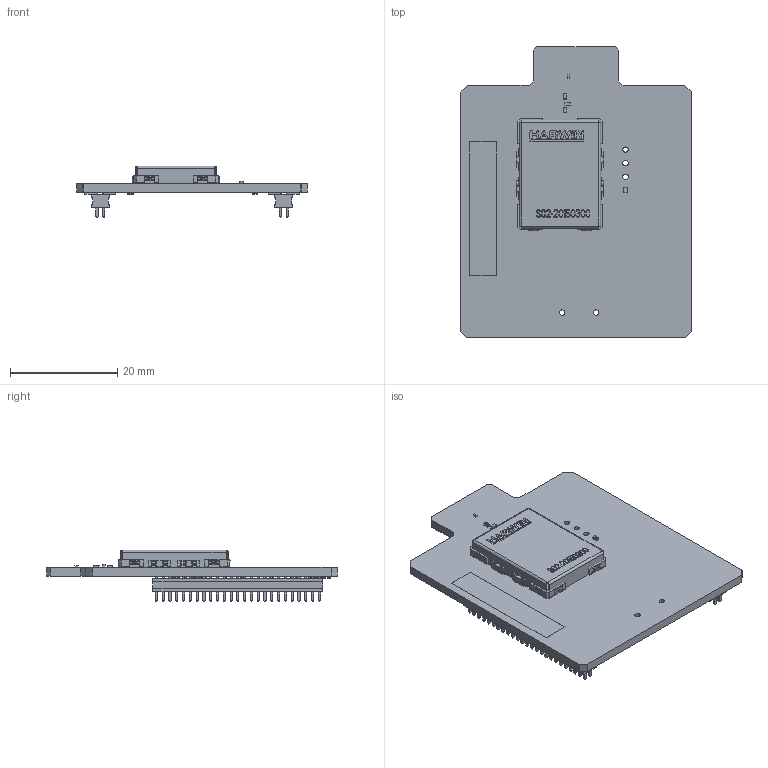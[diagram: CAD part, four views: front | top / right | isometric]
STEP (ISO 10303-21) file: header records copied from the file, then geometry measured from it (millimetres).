
FILE_DESCRIPTION(('Open CASCADE Model'),'2;1');
FILE_NAME('Open CASCADE Shape Model','2024-06-21T18:52:04',('Author'),( 'Open CASCADE'),'Open CASCADE STEP processor 7.5','Open CASCADE 7.5' ,'Unknown');
FILE_SCHEMA(('AUTOMOTIVE_DESIGN { 1 0 10303 214 1 1 1 1 }'));
Length unit declared in the file: millimetre
Products named in the file (115): PCB; Board; Open CASCADE STEP translator 7.5 3.1.1; SB57; R0402; 6964066400; Extruded; SB55; SB48; SB47; SB43; SB41; SB38; SB37; SB34; SB32; SB28; SB20; SB17; SB16; SB14; SB11; SB9; R10; 6964074080; R1; SC2; s0981-46; 6964070320; SC3; Shield clip s0951-46; 6964070080; SC1; 6963949680; SC7; 6963949840; SC8; 6964065280; U2; 6964073040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
Assembly tree (196 placements, depth 4):
  PCB
    Board
      Open CASCADE STEP translator 7.5 3.1.1
    SB57
      R0402
      6964066400
        Extruded
    SB55
      R0402
      6964066400
        Extruded
    SB48
      R0402
      6964066400
        Extruded
    SB47
      R0402
      6964066400
        Extruded
    SB43
      R0402
      6964066400
        Extruded
    SB41
      R0402
      6964066400
        Extruded
    SB38
      R0402
      6964066400
        Extruded
    SB37
      R0402
      6964066400
        Extruded
    SB34
      R0402
      6964066400
        Extruded
    SB32
      R0402
      6964066400
        Extruded
    SB28
      R0402
      6964066400
        Extruded
    SB20
      R0402
      6964066400
        Extruded
    SB17
      R0402
      6964066400
        Extruded
    SB16
      R0402
      6964066400
        Extruded
    SB14
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Bounding box: 43.1 x 54.35 x 9.71 mm (x, y, z)
Volume: 4469.1 mm3; surface area: 9422.7 mm2
Topology: 164 solids, 170 shells, 12844 faces, 30904 edges, 17723 vertices
Faces by surface type: plane 6236, cylinder 3468, bspline 1656, sphere 1180, torus 200, revolution 104
Full cylindrical faces by diameter (mm): 0.2 x1, 1 x5
Entity records: 114021 total; most frequent: CARTESIAN_POINT 23543, ORIENTED_EDGE 16402, DIRECTION 15445, EDGE_CURVE 8202, LINE 6987, VECTOR 6987, VERTEX_POINT 5180, AXIS2_PLACEMENT_3D 4225
